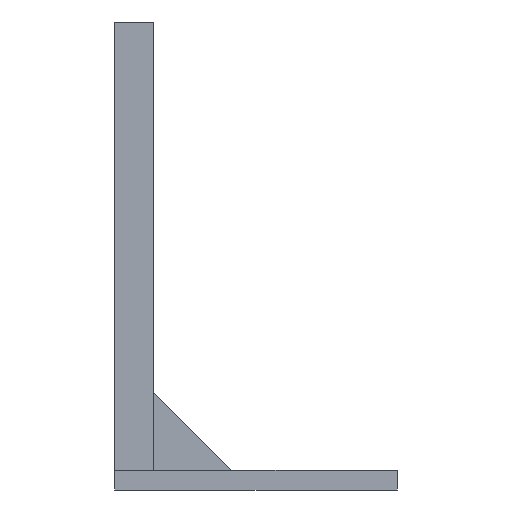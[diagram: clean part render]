
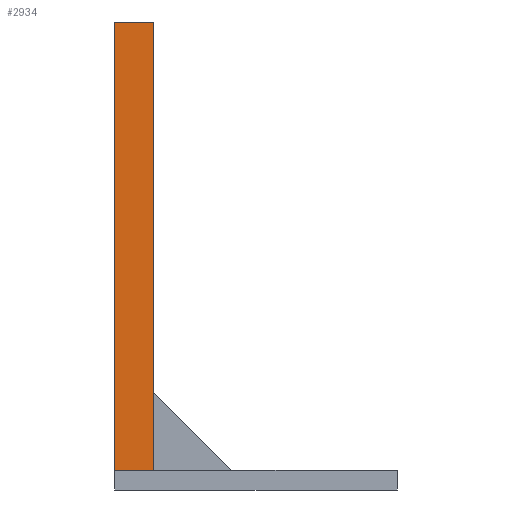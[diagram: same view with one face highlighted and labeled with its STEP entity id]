
A CAD part, left-side view. The second image highlights one B-rep face of the part: STEP entity #2934.
In plain terms, the highlighted planar face has unit normal (-1, 0, 0).
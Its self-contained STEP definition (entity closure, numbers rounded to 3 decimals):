
#100 = PLANE('',#101);
#101 = AXIS2_PLACEMENT_3D('',#102,#103,#104);
#102 = CARTESIAN_POINT('',(-20.,14.5,-1.));
#103 = DIRECTION('',(-0.,1.,0.));
#104 = DIRECTION('',(0.,0.,1.));
#128 = PLANE('',#129);
#129 = AXIS2_PLACEMENT_3D('',#130,#131,#132);
#130 = CARTESIAN_POINT('',(-28.,10.5,1.));
#131 = DIRECTION('',(0.,0.,1.));
#132 = DIRECTION('',(1.,0.,-0.));
#286 = PLANE('',#287);
#287 = AXIS2_PLACEMENT_3D('',#288,#289,#290);
#288 = CARTESIAN_POINT('',(-28.,10.5,1.));
#289 = DIRECTION('',(-0.,1.,0.));
#290 = DIRECTION('',(0.,0.,1.));
#770 = VERTEX_POINT('',#771);
#771 = CARTESIAN_POINT('',(-28.,14.5,1.));
#792 = EDGE_CURVE('',#793,#770,#795,.T.);
#793 = VERTEX_POINT('',#794);
#794 = CARTESIAN_POINT('',(-28.,10.5,1.));
#795 = SURFACE_CURVE('',#796,(#800,#807),.PCURVE_S1.);
#796 = LINE('',#797,#798);
#797 = CARTESIAN_POINT('',(-28.,10.5,1.));
#798 = VECTOR('',#799,1.);
#799 = DIRECTION('',(-0.,1.,0.));
#800 = PCURVE('',#128,#801);
#801 = DEFINITIONAL_REPRESENTATION('',(#802),#806);
#802 = LINE('',#803,#804);
#803 = CARTESIAN_POINT('',(0.,0.));
#804 = VECTOR('',#805,1.);
#805 = DIRECTION('',(0.,1.));
#806 = ( GEOMETRIC_REPRESENTATION_CONTEXT(2) 
PARAMETRIC_REPRESENTATION_CONTEXT() REPRESENTATION_CONTEXT('2D SPACE',''
  ) );
#807 = PCURVE('',#808,#813);
#808 = PLANE('',#809);
#809 = AXIS2_PLACEMENT_3D('',#810,#811,#812);
#810 = CARTESIAN_POINT('',(-28.,10.5,1.));
#811 = DIRECTION('',(1.,0.,-0.));
#812 = DIRECTION('',(0.,0.,1.));
#813 = DEFINITIONAL_REPRESENTATION('',(#814),#818);
#814 = LINE('',#815,#816);
#815 = CARTESIAN_POINT('',(0.,0.));
#816 = VECTOR('',#817,1.);
#817 = DIRECTION('',(0.,-1.));
#818 = ( GEOMETRIC_REPRESENTATION_CONTEXT(2) 
PARAMETRIC_REPRESENTATION_CONTEXT() REPRESENTATION_CONTEXT('2D SPACE',''
  ) );
#870 = EDGE_CURVE('',#770,#871,#873,.T.);
#871 = VERTEX_POINT('',#872);
#872 = CARTESIAN_POINT('',(-28.,14.5,47.));
#873 = SURFACE_CURVE('',#874,(#878,#885),.PCURVE_S1.);
#874 = LINE('',#875,#876);
#875 = CARTESIAN_POINT('',(-28.,14.5,1.));
#876 = VECTOR('',#877,1.);
#877 = DIRECTION('',(0.,0.,1.));
#878 = PCURVE('',#100,#879);
#879 = DEFINITIONAL_REPRESENTATION('',(#880),#884);
#880 = LINE('',#881,#882);
#881 = CARTESIAN_POINT('',(2.,-8.));
#882 = VECTOR('',#883,1.);
#883 = DIRECTION('',(1.,0.));
#884 = ( GEOMETRIC_REPRESENTATION_CONTEXT(2) 
PARAMETRIC_REPRESENTATION_CONTEXT() REPRESENTATION_CONTEXT('2D SPACE',''
  ) );
#885 = PCURVE('',#808,#886);
#886 = DEFINITIONAL_REPRESENTATION('',(#887),#891);
#887 = LINE('',#888,#889);
#888 = CARTESIAN_POINT('',(0.,-4.));
#889 = VECTOR('',#890,1.);
#890 = DIRECTION('',(1.,0.));
#891 = ( GEOMETRIC_REPRESENTATION_CONTEXT(2) 
PARAMETRIC_REPRESENTATION_CONTEXT() REPRESENTATION_CONTEXT('2D SPACE',''
  ) );
#909 = PLANE('',#910);
#910 = AXIS2_PLACEMENT_3D('',#911,#912,#913);
#911 = CARTESIAN_POINT('',(-28.,10.5,47.));
#912 = DIRECTION('',(0.,0.,1.));
#913 = DIRECTION('',(1.,0.,-0.));
#1824 = EDGE_CURVE('',#793,#1825,#1827,.T.);
#1825 = VERTEX_POINT('',#1826);
#1826 = CARTESIAN_POINT('',(-28.,10.5,47.));
#1827 = SURFACE_CURVE('',#1828,(#1832,#1839),.PCURVE_S1.);
#1828 = LINE('',#1829,#1830);
#1829 = CARTESIAN_POINT('',(-28.,10.5,1.));
#1830 = VECTOR('',#1831,1.);
#1831 = DIRECTION('',(0.,0.,1.));
#1832 = PCURVE('',#286,#1833);
#1833 = DEFINITIONAL_REPRESENTATION('',(#1834),#1838);
#1834 = LINE('',#1835,#1836);
#1835 = CARTESIAN_POINT('',(0.,0.));
#1836 = VECTOR('',#1837,1.);
#1837 = DIRECTION('',(1.,0.));
#1838 = ( GEOMETRIC_REPRESENTATION_CONTEXT(2) 
PARAMETRIC_REPRESENTATION_CONTEXT() REPRESENTATION_CONTEXT('2D SPACE',''
  ) );
#1839 = PCURVE('',#808,#1840);
#1840 = DEFINITIONAL_REPRESENTATION('',(#1841),#1845);
#1841 = LINE('',#1842,#1843);
#1842 = CARTESIAN_POINT('',(0.,0.));
#1843 = VECTOR('',#1844,1.);
#1844 = DIRECTION('',(1.,0.));
#1845 = ( GEOMETRIC_REPRESENTATION_CONTEXT(2) 
PARAMETRIC_REPRESENTATION_CONTEXT() REPRESENTATION_CONTEXT('2D SPACE',''
  ) );
#2934 = ADVANCED_FACE('',(#2935),#808,.F.);
#2935 = FACE_BOUND('',#2936,.F.);
#2936 = EDGE_LOOP('',(#2937,#2938,#2939,#2940));
#2937 = ORIENTED_EDGE('',*,*,#1824,.F.);
#2938 = ORIENTED_EDGE('',*,*,#792,.T.);
#2939 = ORIENTED_EDGE('',*,*,#870,.T.);
#2940 = ORIENTED_EDGE('',*,*,#2941,.F.);
#2941 = EDGE_CURVE('',#1825,#871,#2942,.T.);
#2942 = SURFACE_CURVE('',#2943,(#2947,#2954),.PCURVE_S1.);
#2943 = LINE('',#2944,#2945);
#2944 = CARTESIAN_POINT('',(-28.,10.5,47.));
#2945 = VECTOR('',#2946,1.);
#2946 = DIRECTION('',(-0.,1.,0.));
#2947 = PCURVE('',#808,#2948);
#2948 = DEFINITIONAL_REPRESENTATION('',(#2949),#2953);
#2949 = LINE('',#2950,#2951);
#2950 = CARTESIAN_POINT('',(46.,0.));
#2951 = VECTOR('',#2952,1.);
#2952 = DIRECTION('',(0.,-1.));
#2953 = ( GEOMETRIC_REPRESENTATION_CONTEXT(2) 
PARAMETRIC_REPRESENTATION_CONTEXT() REPRESENTATION_CONTEXT('2D SPACE',''
  ) );
#2954 = PCURVE('',#909,#2955);
#2955 = DEFINITIONAL_REPRESENTATION('',(#2956),#2960);
#2956 = LINE('',#2957,#2958);
#2957 = CARTESIAN_POINT('',(0.,0.));
#2958 = VECTOR('',#2959,1.);
#2959 = DIRECTION('',(0.,1.));
#2960 = ( GEOMETRIC_REPRESENTATION_CONTEXT(2) 
PARAMETRIC_REPRESENTATION_CONTEXT() REPRESENTATION_CONTEXT('2D SPACE',''
  ) );
